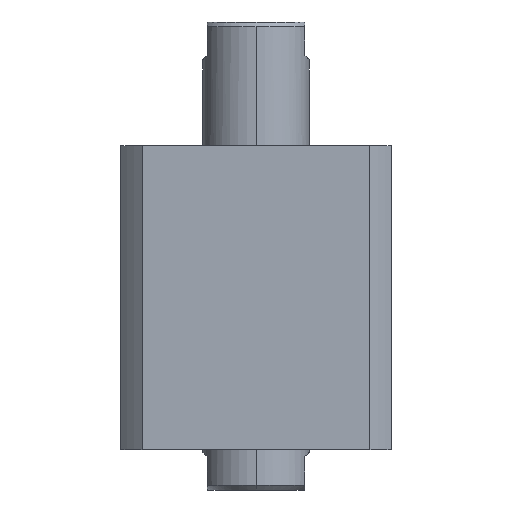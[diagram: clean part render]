
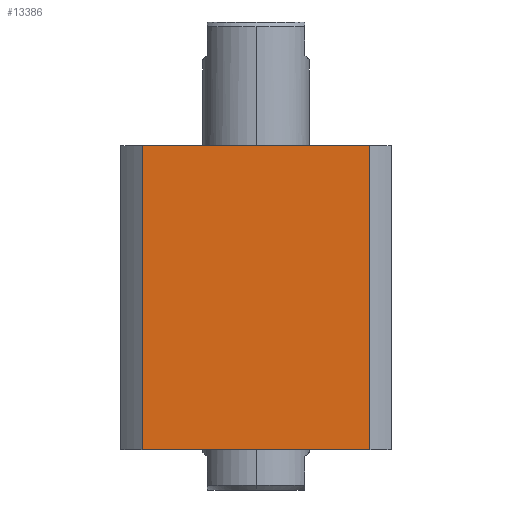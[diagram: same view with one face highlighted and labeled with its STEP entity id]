
A CAD part, front view. The second image highlights one B-rep face of the part: STEP entity #13386.
In plain terms, the highlighted planar face has unit normal (0, -1, 0) as drawn and (1, 0, 0) by its records, which use the part's own axes.
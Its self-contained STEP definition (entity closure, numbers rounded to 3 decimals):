
#424 = CARTESIAN_POINT ( 'NONE',  ( 57., 57., 0. ) ) ;
#1757 = ORIENTED_EDGE ( 'NONE', *, *, #3565, .T. ) ;
#1832 = LINE ( 'NONE', #8301, #8298 ) ;
#2027 = VERTEX_POINT ( 'NONE', #2139 ) ;
#2139 = CARTESIAN_POINT ( 'NONE',  ( 57., -47.971, 128. ) ) ;
#2532 = AXIS2_PLACEMENT_3D ( 'NONE', #8284, #7120, #15611 ) ;
#2854 = DIRECTION ( 'NONE',  ( 0., 1., 0. ) ) ;
#3113 = EDGE_CURVE ( 'NONE', #6385, #2027, #1832, .T. ) ;
#3457 = PLANE ( 'NONE',  #2532 ) ;
#3565 = EDGE_CURVE ( 'NONE', #6385, #12641, #12098, .T. ) ;
#3796 = ORIENTED_EDGE ( 'NONE', *, *, #3113, .F. ) ;
#4747 = ORIENTED_EDGE ( 'NONE', *, *, #7625, .F. ) ;
#5018 = FACE_OUTER_BOUND ( 'NONE', #12847, .T. ) ;
#5230 = CARTESIAN_POINT ( 'NONE',  ( 57., 57., 128. ) ) ;
#5924 = DIRECTION ( 'NONE',  ( 0., 0., -1. ) ) ;
#6385 = VERTEX_POINT ( 'NONE', #15332 ) ;
#7120 = DIRECTION ( 'NONE',  ( -1., 0., 0. ) ) ;
#7625 = EDGE_CURVE ( 'NONE', #2027, #9535, #8838, .T. ) ;
#8284 = CARTESIAN_POINT ( 'NONE',  ( 57., 57., 128. ) ) ;
#8298 = VECTOR ( 'NONE', #10812, 1000. ) ;
#8301 = CARTESIAN_POINT ( 'NONE',  ( 57., -47.971, -172. ) ) ;
#8373 = CARTESIAN_POINT ( 'NONE',  ( 57., 47.971, -172. ) ) ;
#8784 = ORIENTED_EDGE ( 'NONE', *, *, #10583, .F. ) ;
#8838 = LINE ( 'NONE', #5230, #14571 ) ;
#8842 = VECTOR ( 'NONE', #12580, 1000. ) ;
#9535 = VERTEX_POINT ( 'NONE', #11920 ) ;
#10583 = EDGE_CURVE ( 'NONE', #9535, #12641, #14565, .T. ) ;
#10812 = DIRECTION ( 'NONE',  ( 0., 0., 1. ) ) ;
#11329 = VECTOR ( 'NONE', #5924, 1000. ) ;
#11920 = CARTESIAN_POINT ( 'NONE',  ( 57., 47.971, 128. ) ) ;
#12098 = LINE ( 'NONE', #424, #8842 ) ;
#12580 = DIRECTION ( 'NONE',  ( 0., 1., 0. ) ) ;
#12641 = VERTEX_POINT ( 'NONE', #14530 ) ;
#12847 = EDGE_LOOP ( 'NONE', ( #3796, #1757, #8784, #4747 ) ) ;
#13386 = ADVANCED_FACE ( 'NONE', ( #5018 ), #3457, .F. ) ;
#14530 = CARTESIAN_POINT ( 'NONE',  ( 57., 47.971, 0. ) ) ;
#14565 = LINE ( 'NONE', #8373, #11329 ) ;
#14571 = VECTOR ( 'NONE', #2854, 1000. ) ;
#15332 = CARTESIAN_POINT ( 'NONE',  ( 57., -47.971, 0. ) ) ;
#15611 = DIRECTION ( 'NONE',  ( 0., -1., 0. ) ) ;
